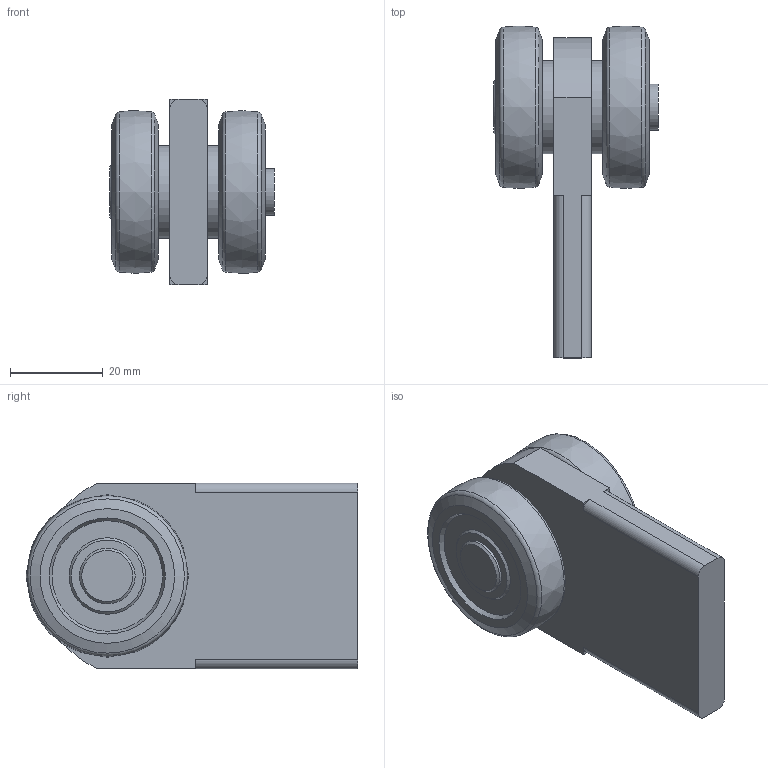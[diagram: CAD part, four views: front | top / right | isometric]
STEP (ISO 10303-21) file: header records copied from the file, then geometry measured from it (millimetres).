
FILE_DESCRIPTION(/* description */ ('Sonderkugelllager Nr.2'),/* implementation_level */ '2;1');
FILE_NAME(/* name */ 'Q:\sge-ma\Produktmanagement-STB\STB\Workspace\stp\010336824.stp',/* time_stamp */ '2016-07-18T12:47:52+02:00',/* author */ ('avschreier'),/* organization */ (''),/* preprocessor_version */ 'ST-DEVELOPER v16.1',/* originating_system */ 'Autodesk Inventor 2016',/* authorisation */ '');
FILE_SCHEMA (('AUTOMOTIVE_DESIGN { 1 0 10303 214 3 1 1 }'));
Length unit declared in the file: millimetre
Products named in the file (5): 000303236; 000304013; 000226094; 337000213; 010336824
Assembly tree (6 placements, depth 2):
  010336824
    000303236  x2
    000304013
    000226094  x2
    337000213
Bounding box: 35.5 x 71.5 x 40 mm (x, y, z)
Volume: 39802.3 mm3; surface area: 15568.6 mm2
Topology: 6 solids, 6 shells, 66 faces, 125 edges, 80 vertices
Faces by surface type: plane 28, cone 17, cylinder 14, torus 5, bspline 2
Full cylindrical faces by diameter (mm): 10 x3, 10.1 x1, 10.5 x2, 12 x1, 20 x2
Entity records: 1211 total; most frequent: DIRECTION 218, CARTESIAN_POINT 208, ORIENTED_EDGE 138, AXIS2_PLACEMENT_3D 96, EDGE_LOOP 73, EDGE_CURVE 69, VERTEX_POINT 56, FACE_OUTER_BOUND 44
